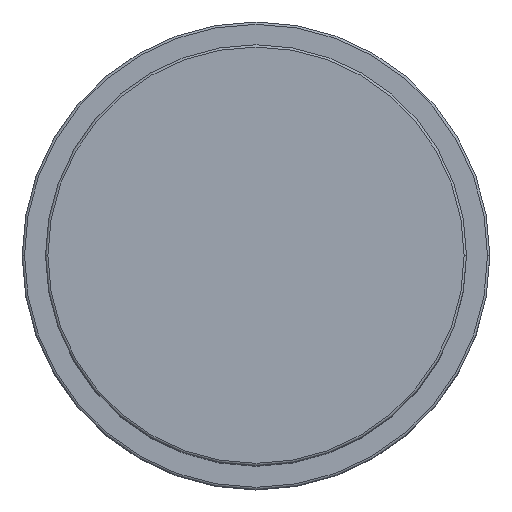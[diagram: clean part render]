
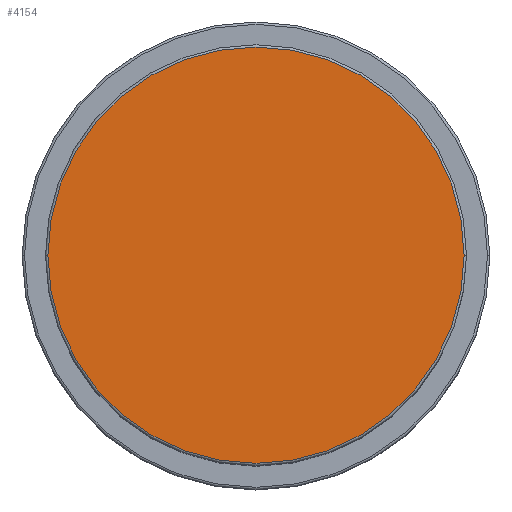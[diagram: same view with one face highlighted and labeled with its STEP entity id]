
A CAD part, top view. The second image highlights one B-rep face of the part: STEP entity #4154.
In plain terms, the highlighted planar face has unit normal (0, 0, 1).
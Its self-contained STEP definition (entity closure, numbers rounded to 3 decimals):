
#18 = DIRECTION ( 'NONE',  ( 0., 0., 1. ) ) ;
#93 = PLANE ( 'NONE',  #3038 ) ;
#139 = CARTESIAN_POINT ( 'NONE',  ( 44.5, 0., 97. ) ) ;
#186 = DIRECTION ( 'NONE',  ( 0., 0., 1. ) ) ;
#209 = DIRECTION ( 'NONE',  ( 1., 0., 0. ) ) ;
#370 = CARTESIAN_POINT ( 'NONE',  ( -44.5, 0., 97. ) ) ;
#555 = EDGE_CURVE ( 'NONE', #2403, #1139, #6843, .T. ) ;
#1030 = ORIENTED_EDGE ( 'NONE', *, *, #555, .T. ) ;
#1139 = VERTEX_POINT ( 'NONE', #139 ) ;
#1496 = FACE_OUTER_BOUND ( 'NONE', #4929, .T. ) ;
#2403 = VERTEX_POINT ( 'NONE', #370 ) ;
#2508 = DIRECTION ( 'NONE',  ( 1., 0., 0. ) ) ;
#3038 = AXIS2_PLACEMENT_3D ( 'NONE', #3397, #18, #3419 ) ;
#3397 = CARTESIAN_POINT ( 'NONE',  ( 0., 0., 97. ) ) ;
#3419 = DIRECTION ( 'NONE',  ( 1., 0., 0. ) ) ;
#3958 = CARTESIAN_POINT ( 'NONE',  ( 0., 0., 97. ) ) ;
#4154 = ADVANCED_FACE ( 'NONE', ( #1496 ), #93, .T. ) ;
#4743 = ORIENTED_EDGE ( 'NONE', *, *, #6646, .T. ) ;
#4929 = EDGE_LOOP ( 'NONE', ( #4743, #1030 ) ) ;
#4947 = AXIS2_PLACEMENT_3D ( 'NONE', #6945, #186, #2508 ) ;
#6301 = DIRECTION ( 'NONE',  ( 0., 0., 1. ) ) ;
#6497 = CIRCLE ( 'NONE', #6746, 44.5 ) ;
#6646 = EDGE_CURVE ( 'NONE', #1139, #2403, #6497, .T. ) ;
#6746 = AXIS2_PLACEMENT_3D ( 'NONE', #3958, #6301, #209 ) ;
#6843 = CIRCLE ( 'NONE', #4947, 44.5 ) ;
#6945 = CARTESIAN_POINT ( 'NONE',  ( 0., 0., 97. ) ) ;
